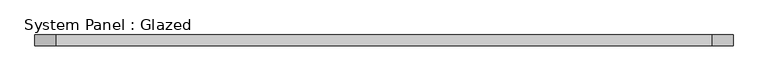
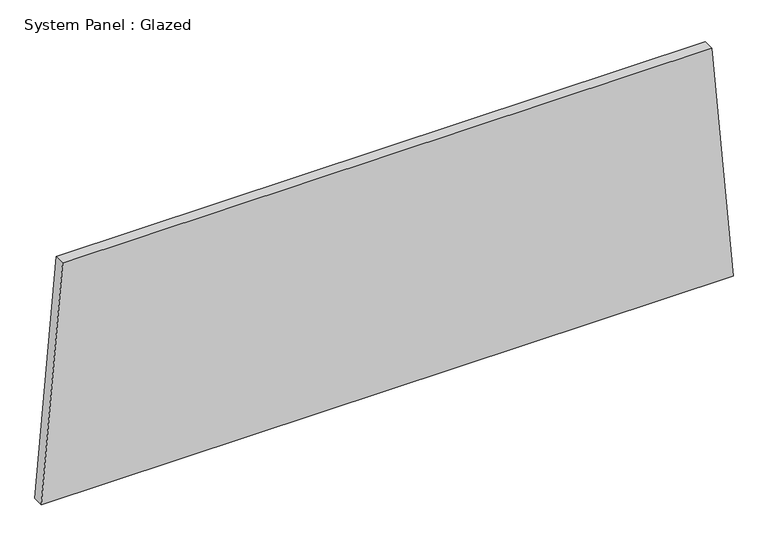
"""IFC4 building model written with IfcOpenShell, lengths in millimetres: plate geometry, System Panel : Glazed."""

from ifc_helpers import new_model, si_unit, frame, origin, place, context, project, spatial, polyline, outline, extrude, source, transform, mapped, element, save


def system_panel_glazed_3632f886(model_context):
    return source(origin(), model_context, "Body", "SweptSolid", [
        extrude(outline(polyline([(0.0, -810.6229011), (0.0, 810.6229011), (581.9568348, 760.5601087), (581.9568348, -760.5601087), (0.0, -810.6229011)])), frame((0.0, -44.45, 0.0), z_axis=(0.0, 1.0, 0.0), x_axis=(0.0, 0.0, 1.0)), (0.0, 0.0, 1.0), 25.4),
    ])


if __name__ == "__main__":
    model = new_model("IFC4")
    model_context = context("Model", 3, world=origin())
    ifc_project = project(units=[si_unit("LENGTHUNIT", "METRE", prefix="MILLI")], contexts=[model_context])
    site = spatial("IfcSite", under=ifc_project)
    building = spatial("IfcBuilding", under=site)
    placement = place(None, origin())
    system_panel_glazed_shape = system_panel_glazed_3632f886(model_context)
    element("IfcPlate", 1, ObjectType="System Panel : Glazed", at=placement, inside=building, context=model_context, shape_type="MappedRepresentation", body=[
        mapped(system_panel_glazed_shape, transform((0.0, 0.0, 0.0), x_axis=(1.0, 0.0, 0.0), y_axis=(0.0, 1.0, 0.0), z_axis=(0.0, 0.0, 1.0))),
    ])
    save(model, "model.ifc")
